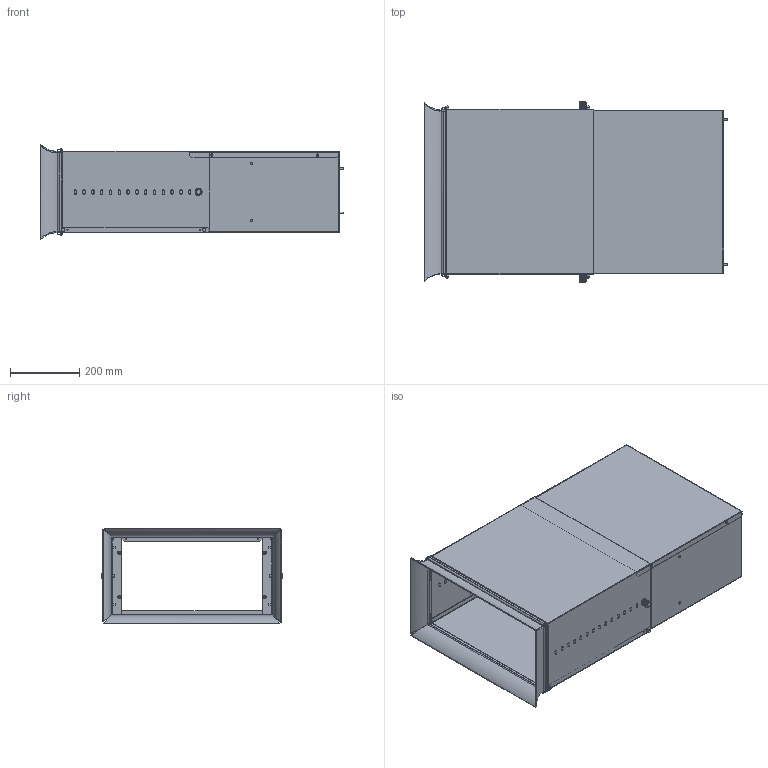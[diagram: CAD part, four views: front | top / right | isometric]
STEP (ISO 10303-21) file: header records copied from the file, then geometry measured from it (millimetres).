
FILE_DESCRIPTION((''),'2;1');
FILE_NAME('C:\Users\KYLEB\Desktop\Cooling - Air Managers, Brush Grommet Kits, Chimneys & Other Solutions\GL-EC-42-1832\GL-EC-42-1832.stp','2011-06-28T10:21:21',('KyleB'),(''),'Autodesk Inventor 2011','Autodesk Inventor 2011','');
FILE_SCHEMA(('AUTOMOTIVE_DESIGN { 1 0 10303 214 1 1 1 1 }'));
Length unit declared in the file: inch
Products named in the file (16): I007848; I007849; S04200; FH0328; I007850; FH0326; H01-078; I007851; KPK1300A; H02-006; I007852; I007846SIDE; I007847SIDE
Assembly tree (39 placements, depth 3):
  I007848
    I007849
      I007849
      S04200  x2
      FH0328  x4
    I007850
      I007850
      FH0326  x4
    H01-078  x4
    I007851
    KPK1300A  x2
    H02-006  x8
    I007852
      I007852
      FH0326  x4
    I007846SIDE  x2
    I007847SIDE  x2
Bounding box: 873.88 x 520.24 x 274.56 mm (x, y, z)
Volume: 1899335.8 mm3; surface area: 2876394.9 mm2
Topology: 36 solids, 36 shells, 1464 faces, 4083 edges, 2723 vertices
Faces by surface type: plane 830, cylinder 610, sphere 12, cone 10, torus 2
Full cylindrical faces by diameter (mm): 3.175 x4, 3.962 x8, 4.826 x16, 4.851 x12, 4.978 x2, 5.563 x12, 6.35 x2, 6.502 x12, 8.738 x2, 8.814 x2, 8.89 x8, 9.525 x4, 11.176 x2
Entity records: 25629 total; most frequent: CARTESIAN_POINT 5202, DIRECTION 4162, ORIENTED_EDGE 4150, EDGE_CURVE 2075, AXIS2_PLACEMENT_3D 1437, VERTEX_POINT 1411, VECTOR 1288, LINE 1288
